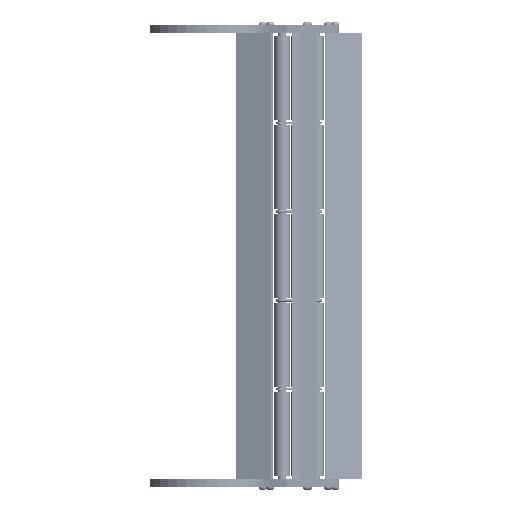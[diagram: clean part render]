
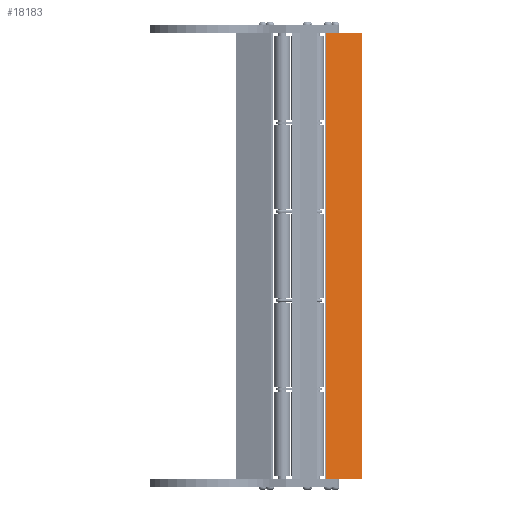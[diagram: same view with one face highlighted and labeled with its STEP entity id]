
A CAD part, front view. The second image highlights one B-rep face of the part: STEP entity #18183.
In plain terms, the highlighted planar face has unit normal (0.342, -0.94, 0).
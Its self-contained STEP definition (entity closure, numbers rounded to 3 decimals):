
#458 = VERTEX_POINT ( 'NONE', #14763 ) ;
#912 = LINE ( 'NONE', #5210, #7192 ) ;
#1002 = VECTOR ( 'NONE', #19059, 1000. ) ;
#3175 = ORIENTED_EDGE ( 'NONE', *, *, #16453, .F. ) ;
#3963 = DIRECTION ( 'NONE',  ( -0.94, -0.342, 0. ) ) ;
#4354 = DIRECTION ( 'NONE',  ( 0., 0., -1. ) ) ;
#4626 = VECTOR ( 'NONE', #4354, 1000. ) ;
#5210 = CARTESIAN_POINT ( 'NONE',  ( 1.655, 0., 418. ) ) ;
#5553 = EDGE_CURVE ( 'NONE', #458, #7869, #6792, .T. ) ;
#5604 = DIRECTION ( 'NONE',  ( -0.342, 0.94, 0. ) ) ;
#5854 = ORIENTED_EDGE ( 'NONE', *, *, #17851, .F. ) ;
#6120 = CARTESIAN_POINT ( 'NONE',  ( 35., 12.137, 0. ) ) ;
#6574 = ORIENTED_EDGE ( 'NONE', *, *, #10011, .T. ) ;
#6792 = LINE ( 'NONE', #17629, #9283 ) ;
#7192 = VECTOR ( 'NONE', #17151, 1000. ) ;
#7869 = VERTEX_POINT ( 'NONE', #6120 ) ;
#8799 = FACE_OUTER_BOUND ( 'NONE', #16111, .T. ) ;
#9283 = VECTOR ( 'NONE', #19107, 1000. ) ;
#9354 = AXIS2_PLACEMENT_3D ( 'NONE', #10198, #5604, #3963 ) ;
#10006 = PLANE ( 'NONE',  #9354 ) ;
#10011 = EDGE_CURVE ( 'NONE', #13137, #458, #912, .T. ) ;
#10198 = CARTESIAN_POINT ( 'NONE',  ( 35., 12.137, 418. ) ) ;
#10479 = CARTESIAN_POINT ( 'NONE',  ( 35., 12.137, 418. ) ) ;
#12467 = VERTEX_POINT ( 'NONE', #10479 ) ;
#13034 = LINE ( 'NONE', #13223, #1002 ) ;
#13137 = VERTEX_POINT ( 'NONE', #15751 ) ;
#13223 = CARTESIAN_POINT ( 'NONE',  ( 1.655, 0., 418. ) ) ;
#14610 = LINE ( 'NONE', #16396, #4626 ) ;
#14763 = CARTESIAN_POINT ( 'NONE',  ( 1.655, 0., 0. ) ) ;
#15751 = CARTESIAN_POINT ( 'NONE',  ( 1.655, 0., 418. ) ) ;
#16111 = EDGE_LOOP ( 'NONE', ( #17045, #5854, #3175, #6574 ) ) ;
#16396 = CARTESIAN_POINT ( 'NONE',  ( 35., 12.137, 418. ) ) ;
#16453 = EDGE_CURVE ( 'NONE', #13137, #12467, #13034, .T. ) ;
#17045 = ORIENTED_EDGE ( 'NONE', *, *, #5553, .T. ) ;
#17151 = DIRECTION ( 'NONE',  ( 0., 0., -1. ) ) ;
#17629 = CARTESIAN_POINT ( 'NONE',  ( 35., 12.137, 0. ) ) ;
#17851 = EDGE_CURVE ( 'NONE', #12467, #7869, #14610, .T. ) ;
#18183 = ADVANCED_FACE ( 'NONE', ( #8799 ), #10006, .F. ) ;
#19059 = DIRECTION ( 'NONE',  ( 0.94, 0.342, 0. ) ) ;
#19107 = DIRECTION ( 'NONE',  ( 0.94, 0.342, 0. ) ) ;
